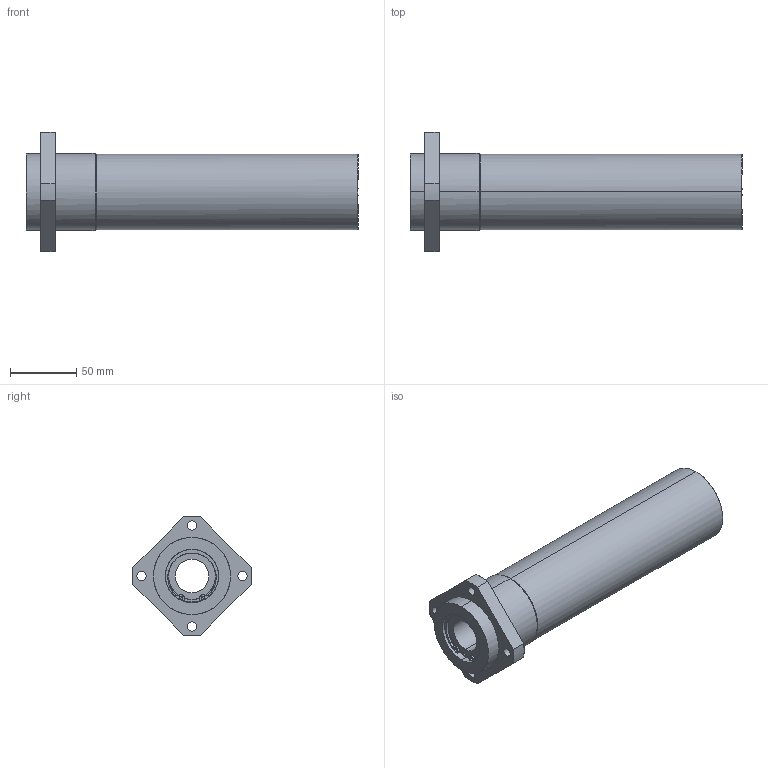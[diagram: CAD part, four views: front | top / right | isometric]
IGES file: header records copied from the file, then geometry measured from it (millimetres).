
Global section: file name: No Iges File Name specified; native system: AutoDesk Inventor R11.0; preprocessor: AutoDesk Inventor Iges Exporter R11.0; author: No Author specified; organization: No Organization specified; date: 20170922.140347; units: millimetre
Bounding box: 250 x 89.99 x 89.99 mm (x, y, z)
Surface area: 82233.2 mm2 (no closed solid volume)
Topology: 0 solids, 0 shells, 133 faces, 980 edges, 980 vertices
Faces by surface type: bspline 133
